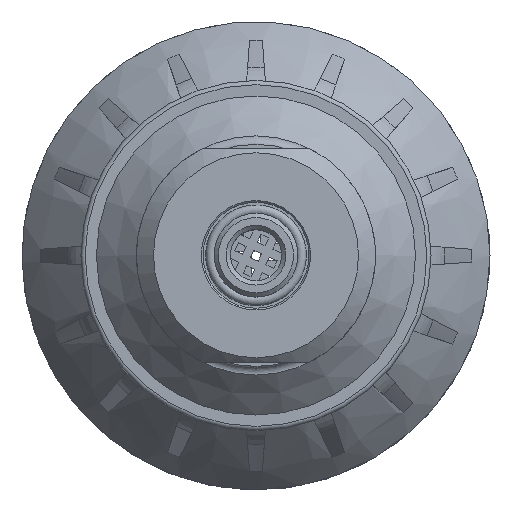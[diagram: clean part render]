
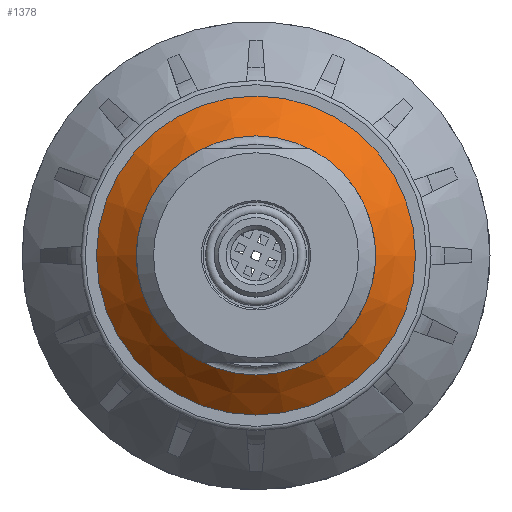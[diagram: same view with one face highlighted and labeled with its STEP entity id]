
A CAD part, top view. The second image highlights one B-rep face of the part: STEP entity #1378.
In plain terms, the highlighted conical face has half-angle 45.485 degrees and reference radius 18.678 mm.
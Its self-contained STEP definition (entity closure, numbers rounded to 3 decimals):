
#1378 = ADVANCED_FACE( '', ( #3386, #3387 ), #3388, .T. );
#3386 = FACE_BOUND( '', #6884, .T. );
#3387 = FACE_OUTER_BOUND( '', #6885, .T. );
#3388 = CONICAL_SURFACE( '', #6886, 18.679, 0.794 );
#6884 = EDGE_LOOP( '', ( #12287 ) );
#6885 = EDGE_LOOP( '', ( #12288 ) );
#6886 = AXIS2_PLACEMENT_3D( '', #12289, #12290, #12291 );
#12287 = ORIENTED_EDGE( '', *, *, #19342, .T. );
#12288 = ORIENTED_EDGE( '', *, *, #19348, .F. );
#12289 = CARTESIAN_POINT( '', ( 0., 0., 5.928 ) );
#12290 = DIRECTION( '', ( 0., 0., -1. ) );
#12291 = DIRECTION( '', ( -1., 0., 0. ) );
#19342 = EDGE_CURVE( '', #23321, #23321, #23322, .T. );
#19348 = EDGE_CURVE( '', #23330, #23330, #23331, .T. );
#23321 = VERTEX_POINT( '', #32311 );
#23322 = CIRCLE( '', #32312, 14. );
#23330 = VERTEX_POINT( '', #32338 );
#23331 = CIRCLE( '', #32339, 18.679 );
#32311 = CARTESIAN_POINT( '', ( -14., 0., 10.528 ) );
#32312 = AXIS2_PLACEMENT_3D( '', #41181, #41182, #41183 );
#32338 = CARTESIAN_POINT( '', ( -18.679, 0., 5.928 ) );
#32339 = AXIS2_PLACEMENT_3D( '', #41188, #41189, #41190 );
#41181 = CARTESIAN_POINT( '', ( 0., 0., 10.528 ) );
#41182 = DIRECTION( '', ( 0., 0., -1. ) );
#41183 = DIRECTION( '', ( -1., 0., 0. ) );
#41188 = CARTESIAN_POINT( '', ( 0., 0., 5.928 ) );
#41189 = DIRECTION( '', ( 0., 0., -1. ) );
#41190 = DIRECTION( '', ( -1., 0., 0. ) );
